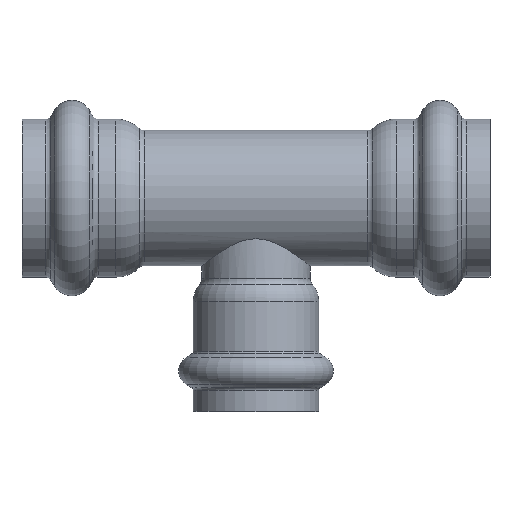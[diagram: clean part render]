
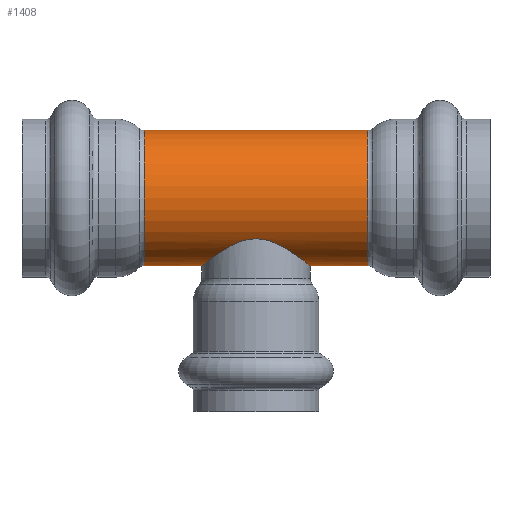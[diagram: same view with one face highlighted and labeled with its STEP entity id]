
A CAD part, top view. The second image highlights one B-rep face of the part: STEP entity #1408.
In plain terms, the highlighted cylindrical face has radius 16.701 mm (diameter 33.401 mm), a full revolution.
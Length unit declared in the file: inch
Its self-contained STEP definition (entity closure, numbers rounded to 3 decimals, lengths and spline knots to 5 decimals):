
#134=FACE_OUTER_BOUND('',#197,.T.);
#197=EDGE_LOOP('',(#1132,#1133,#1134,#1135,#1136,#1137,#1138,#1139,#1140,
#1141,#1142,#1143,#1144,#1145));
#334=CIRCLE('',#1605,0.6575);
#335=CIRCLE('',#1606,0.6575);
#336=CIRCLE('',#1607,0.6575);
#337=CIRCLE('',#1609,0.6575);
#338=CIRCLE('',#1610,0.6575);
#339=CIRCLE('',#1611,0.6575);
#420=LINE('',#2654,#450);
#421=LINE('',#2655,#451);
#450=VECTOR('',#2052,0.6575);
#451=VECTOR('',#2053,0.6575);
#460=B_SPLINE_CURVE_WITH_KNOTS('',3,(#2252,#2253,#2254,#2255,#2256,#2257,
#2258,#2259,#2260,#2261,#2262,#2263,#2264,#2265),.UNSPECIFIED.,.F.,.F.,
(4,2,2,2,2,2,4),(0.,0.27329,0.54659,1.09318,
1.62297,1.88787,2.15276),.UNSPECIFIED.);
#461=B_SPLINE_CURVE_WITH_KNOTS('',3,(#2267,#2268,#2269,#2270,#2271,#2272,
#2273,#2274,#2275,#2276,#2277,#2278,#2279,#2280),.UNSPECIFIED.,.F.,.F.,
(4,2,2,2,2,2,4),(6.45829,6.72319,6.98808,7.51787,
8.06446,8.33776,8.61105),.UNSPECIFIED.);
#462=B_SPLINE_CURVE_WITH_KNOTS('',3,(#2282,#2283,#2284,#2285,#2286,#2287,
#2288,#2289,#2290,#2291,#2292,#2293,#2294,#2295),.UNSPECIFIED.,.F.,.F.,
(4,2,2,2,2,2,4),(4.30553,4.57882,4.85212,5.3987,
5.9285,6.19339,6.45829),.UNSPECIFIED.);
#463=B_SPLINE_CURVE_WITH_KNOTS('',3,(#2301,#2302,#2303,#2304,#2305,#2306,
#2307,#2308,#2309,#2310,#2311,#2312,#2313,#2314),.UNSPECIFIED.,.F.,.F.,
(4,2,2,2,2,2,4),(2.15276,2.41766,2.68256,3.21235,
3.75894,4.03223,4.30553),.UNSPECIFIED.);
#468=VERTEX_POINT('',#2250);
#469=VERTEX_POINT('',#2251);
#470=VERTEX_POINT('',#2266);
#471=VERTEX_POINT('',#2281);
#572=VERTEX_POINT('',#2641);
#573=VERTEX_POINT('',#2643);
#574=VERTEX_POINT('',#2645);
#575=VERTEX_POINT('',#2649);
#576=VERTEX_POINT('',#2650);
#577=VERTEX_POINT('',#2652);
#628=EDGE_CURVE('',#468,#469,#460,.T.);
#629=EDGE_CURVE('',#470,#468,#461,.T.);
#630=EDGE_CURVE('',#471,#470,#462,.T.);
#634=EDGE_CURVE('',#469,#471,#463,.T.);
#772=EDGE_CURVE('',#573,#572,#334,.T.);
#773=EDGE_CURVE('',#574,#573,#335,.T.);
#774=EDGE_CURVE('',#572,#574,#336,.T.);
#775=EDGE_CURVE('',#575,#576,#337,.T.);
#776=EDGE_CURVE('',#577,#575,#338,.T.);
#777=EDGE_CURVE('',#577,#469,#420,.T.);
#778=EDGE_CURVE('',#470,#574,#421,.T.);
#779=EDGE_CURVE('',#576,#577,#339,.T.);
#1132=ORIENTED_EDGE('',*,*,#775,.F.);
#1133=ORIENTED_EDGE('',*,*,#776,.F.);
#1134=ORIENTED_EDGE('',*,*,#777,.T.);
#1135=ORIENTED_EDGE('',*,*,#634,.T.);
#1136=ORIENTED_EDGE('',*,*,#630,.T.);
#1137=ORIENTED_EDGE('',*,*,#778,.T.);
#1138=ORIENTED_EDGE('',*,*,#773,.T.);
#1139=ORIENTED_EDGE('',*,*,#772,.T.);
#1140=ORIENTED_EDGE('',*,*,#774,.T.);
#1141=ORIENTED_EDGE('',*,*,#778,.F.);
#1142=ORIENTED_EDGE('',*,*,#629,.T.);
#1143=ORIENTED_EDGE('',*,*,#628,.T.);
#1144=ORIENTED_EDGE('',*,*,#777,.F.);
#1145=ORIENTED_EDGE('',*,*,#779,.F.);
#1299=CYLINDRICAL_SURFACE('',#1608,0.6575);
#1408=ADVANCED_FACE('',(#134),#1299,.T.);
#1605=AXIS2_PLACEMENT_3D('',#2644,#2040,#2041);
#1606=AXIS2_PLACEMENT_3D('',#2646,#2042,#2043);
#1607=AXIS2_PLACEMENT_3D('',#2647,#2044,#2045);
#1608=AXIS2_PLACEMENT_3D('',#2648,#2046,#2047);
#1609=AXIS2_PLACEMENT_3D('',#2651,#2048,#2049);
#1610=AXIS2_PLACEMENT_3D('',#2653,#2050,#2051);
#1611=AXIS2_PLACEMENT_3D('',#2656,#2054,#2055);
#2040=DIRECTION('center_axis',(1.,0.,0.));
#2041=DIRECTION('ref_axis',(0.,1.,0.));
#2042=DIRECTION('center_axis',(1.,0.,0.));
#2043=DIRECTION('ref_axis',(0.,1.,0.));
#2044=DIRECTION('center_axis',(1.,0.,0.));
#2045=DIRECTION('ref_axis',(0.,1.,0.));
#2046=DIRECTION('center_axis',(1.,0.,0.));
#2047=DIRECTION('ref_axis',(0.,1.,0.));
#2048=DIRECTION('center_axis',(1.,0.,0.));
#2049=DIRECTION('ref_axis',(0.,1.,0.));
#2050=DIRECTION('center_axis',(1.,0.,0.));
#2051=DIRECTION('ref_axis',(0.,1.,0.));
#2052=DIRECTION('',(-1.,0.,0.));
#2053=DIRECTION('',(-1.,0.,0.));
#2054=DIRECTION('center_axis',(1.,0.,0.));
#2055=DIRECTION('ref_axis',(0.,1.,0.));
#2250=CARTESIAN_POINT('',(0.,-0.39583,0.525));
#2251=CARTESIAN_POINT('',(0.525,-0.6575,0.));
#2252=CARTESIAN_POINT('Ctrl Pts',(0.,-0.39583,
0.525));
#2253=CARTESIAN_POINT('Ctrl Pts',(0.03587,-0.39583,
0.525));
#2254=CARTESIAN_POINT('Ctrl Pts',(0.07145,-0.40085,
0.5213));
#2255=CARTESIAN_POINT('Ctrl Pts',(0.14038,-0.41866,
0.50711));
#2256=CARTESIAN_POINT('Ctrl Pts',(0.17375,-0.43137,
0.49661));
#2257=CARTESIAN_POINT('Ctrl Pts',(0.2688,-0.47515,0.45619));
#2258=CARTESIAN_POINT('Ctrl Pts',(0.32557,-0.51144,
0.41689));
#2259=CARTESIAN_POINT('Ctrl Pts',(0.41549,-0.57295,
0.32697));
#2260=CARTESIAN_POINT('Ctrl Pts',(0.45556,-0.60325,
0.27015));
#2261=CARTESIAN_POINT('Ctrl Pts',(0.49668,-0.63506,
0.17366));
#2262=CARTESIAN_POINT('Ctrl Pts',(0.50733,-0.64346,
0.13964));
#2263=CARTESIAN_POINT('Ctrl Pts',(0.52149,-0.65469,0.07019));
#2264=CARTESIAN_POINT('Ctrl Pts',(0.525,-0.6575,0.03476));
#2265=CARTESIAN_POINT('Ctrl Pts',(0.525,-0.6575,0.));
#2266=CARTESIAN_POINT('',(-0.525,-0.6575,0.));
#2267=CARTESIAN_POINT('Ctrl Pts',(-0.525,-0.6575,0.));
#2268=CARTESIAN_POINT('Ctrl Pts',(-0.525,-0.6575,0.03476));
#2269=CARTESIAN_POINT('Ctrl Pts',(-0.52149,-0.65469,
0.07019));
#2270=CARTESIAN_POINT('Ctrl Pts',(-0.50733,-0.64346,
0.13964));
#2271=CARTESIAN_POINT('Ctrl Pts',(-0.49668,-0.63506,
0.17366));
#2272=CARTESIAN_POINT('Ctrl Pts',(-0.45556,-0.60325,
0.27015));
#2273=CARTESIAN_POINT('Ctrl Pts',(-0.41549,-0.57295,
0.32697));
#2274=CARTESIAN_POINT('Ctrl Pts',(-0.32557,-0.51144,
0.41689));
#2275=CARTESIAN_POINT('Ctrl Pts',(-0.2688,-0.47515,
0.45619));
#2276=CARTESIAN_POINT('Ctrl Pts',(-0.17375,-0.43137,
0.49661));
#2277=CARTESIAN_POINT('Ctrl Pts',(-0.14038,-0.41866,
0.50711));
#2278=CARTESIAN_POINT('Ctrl Pts',(-0.07145,-0.40085,
0.5213));
#2279=CARTESIAN_POINT('Ctrl Pts',(-0.03587,-0.39583,
0.525));
#2280=CARTESIAN_POINT('Ctrl Pts',(0.,-0.39583,
0.525));
#2281=CARTESIAN_POINT('',(0.,-0.39583,-0.525));
#2282=CARTESIAN_POINT('Ctrl Pts',(0.,-0.39583,
-0.525));
#2283=CARTESIAN_POINT('Ctrl Pts',(-0.03587,-0.39583,
-0.525));
#2284=CARTESIAN_POINT('Ctrl Pts',(-0.07145,-0.40085,
-0.5213));
#2285=CARTESIAN_POINT('Ctrl Pts',(-0.14038,-0.41866,
-0.50711));
#2286=CARTESIAN_POINT('Ctrl Pts',(-0.17375,-0.43137,
-0.49661));
#2287=CARTESIAN_POINT('Ctrl Pts',(-0.2688,-0.47515,
-0.45619));
#2288=CARTESIAN_POINT('Ctrl Pts',(-0.32557,-0.51144,
-0.41689));
#2289=CARTESIAN_POINT('Ctrl Pts',(-0.41549,-0.57295,
-0.32697));
#2290=CARTESIAN_POINT('Ctrl Pts',(-0.45556,-0.60325,
-0.27015));
#2291=CARTESIAN_POINT('Ctrl Pts',(-0.49668,-0.63506,
-0.17366));
#2292=CARTESIAN_POINT('Ctrl Pts',(-0.50733,-0.64346,
-0.13964));
#2293=CARTESIAN_POINT('Ctrl Pts',(-0.52149,-0.65469,
-0.07019));
#2294=CARTESIAN_POINT('Ctrl Pts',(-0.525,-0.6575,-0.03476));
#2295=CARTESIAN_POINT('Ctrl Pts',(-0.525,-0.6575,0.));
#2301=CARTESIAN_POINT('Ctrl Pts',(0.525,-0.6575,0.));
#2302=CARTESIAN_POINT('Ctrl Pts',(0.525,-0.6575,-0.03476));
#2303=CARTESIAN_POINT('Ctrl Pts',(0.52149,-0.65469,-0.07019));
#2304=CARTESIAN_POINT('Ctrl Pts',(0.50733,-0.64346,
-0.13964));
#2305=CARTESIAN_POINT('Ctrl Pts',(0.49668,-0.63506,
-0.17366));
#2306=CARTESIAN_POINT('Ctrl Pts',(0.45556,-0.60325,
-0.27015));
#2307=CARTESIAN_POINT('Ctrl Pts',(0.41549,-0.57295,
-0.32697));
#2308=CARTESIAN_POINT('Ctrl Pts',(0.32557,-0.51144,
-0.41689));
#2309=CARTESIAN_POINT('Ctrl Pts',(0.2688,-0.47515,-0.45619));
#2310=CARTESIAN_POINT('Ctrl Pts',(0.17375,-0.43137,
-0.49661));
#2311=CARTESIAN_POINT('Ctrl Pts',(0.14038,-0.41866,
-0.50711));
#2312=CARTESIAN_POINT('Ctrl Pts',(0.07145,-0.40085,
-0.5213));
#2313=CARTESIAN_POINT('Ctrl Pts',(0.03587,-0.39583,
-0.525));
#2314=CARTESIAN_POINT('Ctrl Pts',(0.,-0.39583,
-0.525));
#2641=CARTESIAN_POINT('',(-1.08535,0.,0.6575));
#2643=CARTESIAN_POINT('',(-1.08535,0.6575,0.));
#2644=CARTESIAN_POINT('Origin',(-1.08535,0.,0.));
#2645=CARTESIAN_POINT('',(-1.08535,-0.6575,0.));
#2646=CARTESIAN_POINT('Origin',(-1.08535,0.,0.));
#2647=CARTESIAN_POINT('Origin',(-1.08535,0.,0.));
#2648=CARTESIAN_POINT('Origin',(0.54268,0.,0.));
#2649=CARTESIAN_POINT('',(1.08535,0.6575,0.));
#2650=CARTESIAN_POINT('',(1.08535,0.,0.6575));
#2651=CARTESIAN_POINT('Origin',(1.08535,0.,0.));
#2652=CARTESIAN_POINT('',(1.08535,-0.6575,0.));
#2653=CARTESIAN_POINT('Origin',(1.08535,0.,0.));
#2654=CARTESIAN_POINT('',(0.54268,-0.6575,0.));
#2655=CARTESIAN_POINT('',(0.54268,-0.6575,0.));
#2656=CARTESIAN_POINT('Origin',(1.08535,0.,0.));
